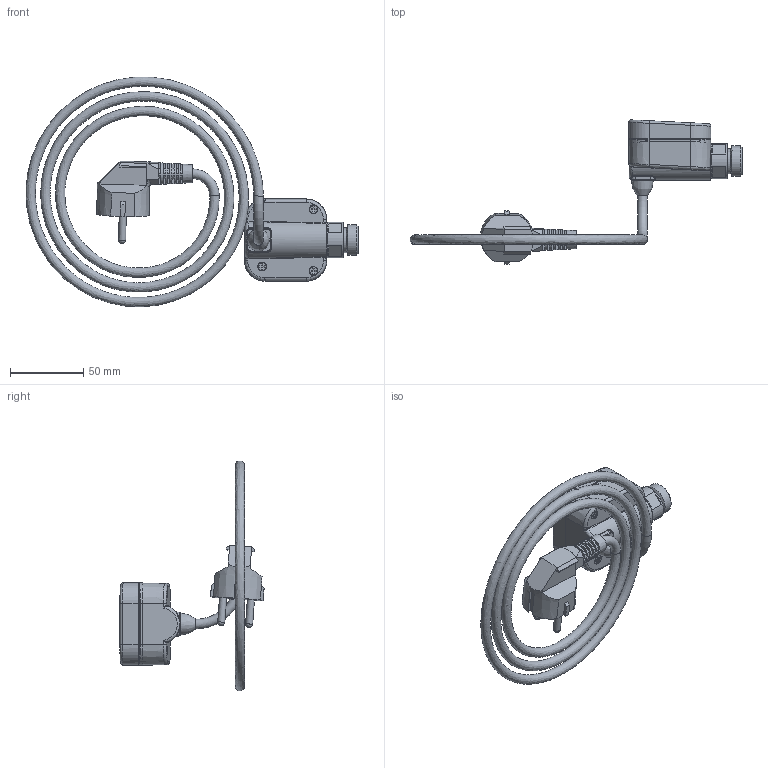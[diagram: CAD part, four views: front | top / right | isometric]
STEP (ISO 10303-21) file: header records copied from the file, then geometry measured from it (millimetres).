
FILE_DESCRIPTION((''),'2;1');
FILE_NAME('G:\HEC2.0\HQT_HEC- hiden cable_DAHL - Kopia\DAHL\HQT_NEX1.0.A_straight cable_10.stp','2019-05-02T11:16:09',('tomek_b'),(''),'Autodesk Inventor 2012','Autodesk Inventor 2012','');
FILE_SCHEMA(('AUTOMOTIVE_DESIGN { 1 0 10303 214 1 1 1 1 }'));
Length unit declared in the file: centimetre
Products named in the file (19): HQT_HEC2.0- hiden cable_10; korpus; głowica_v2; oring60x1-2; BN 82427-3x20; odciazka; oring18x1; front_HEC2.0_001_bez Bluetooth; HEC2.0_front_01_001; membrana_02_bez Bluetooth; membrana_01_002_bez Bluetooth; membrana_minus_01; membrana_plus_01; membrana_on-off_01; membrana_wskaznik_01; membrana_wskaznik_02; membrana_zegar_01; kabel_zwoj_01.0003; wtyczka_01
Assembly tree (23 placements, depth 4):
  HQT_HEC2.0- hiden cable_10
    korpus
    głowica_v2
    oring60x1-2
    BN 82427-3x20  x4
    odciazka
    oring18x1
    front_HEC2.0_001_bez Bluetooth
      HEC2.0_front_01_001
      membrana_02_bez Bluetooth
        membrana_01_002_bez Bluetooth
        membrana_minus_01
        membrana_plus_01
        membrana_on-off_01
        membrana_wskaznik_01  x2
        membrana_wskaznik_02  x2
        membrana_zegar_01
    kabel_zwoj_01.0003
    wtyczka_01
Bounding box: 225.91 x 98.15 x 156.33 mm (x, y, z)
Volume: 108704.8 mm3; surface area: 77059.7 mm2
Topology: 24 solids, 24 shells, 745 faces, 1846 edges, 1188 vertices
Faces by surface type: plane 432, cylinder 186, bspline 67, cone 46, torus 12, sphere 2
Full cylindrical faces by diameter (mm): 1 x4, 2 x2, 2.6 x4, 3 x4, 3.2 x4, 3.6 x2, 4.8 x2, 5 x7, 5.5 x4, 6 x7, 6.4 x1, 6.6 x2, 8 x3, 9.4 x1, 10 x2, 11 x1, 16 x2, 17 x1, 18 x1, 19.1 x2, 19.3 x1, 20.8 x1, 21 x1, 24.1 x1
Entity records: 25960 total; most frequent: CARTESIAN_POINT 9552, DIRECTION 3355, ORIENTED_EDGE 3126, EDGE_CURVE 1563, AXIS2_PLACEMENT_3D 1254, VERTEX_POINT 1053, VECTOR 847, LINE 847
